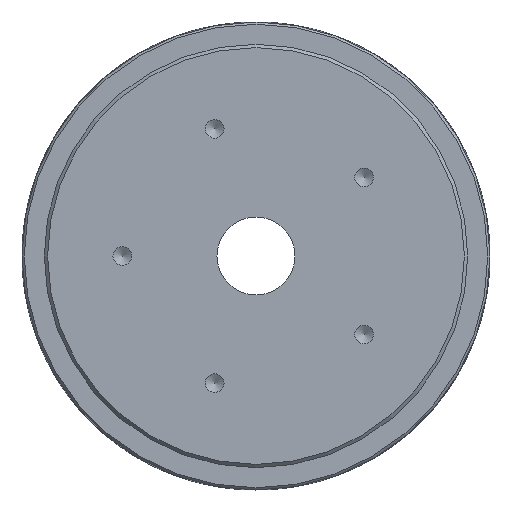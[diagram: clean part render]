
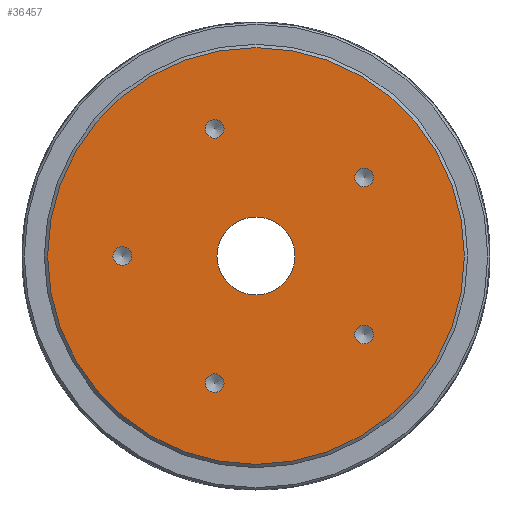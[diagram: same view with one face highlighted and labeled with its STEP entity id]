
A CAD part, left-side view. The second image highlights one B-rep face of the part: STEP entity #36457.
In plain terms, the highlighted planar face has unit normal (-1, 0, 0).
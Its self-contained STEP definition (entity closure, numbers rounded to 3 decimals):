
#7085=FACE_BOUND('',#10122,.T.);
#7086=FACE_BOUND('',#10123,.T.);
#7087=FACE_BOUND('',#10124,.T.);
#7088=FACE_BOUND('',#10125,.T.);
#7089=FACE_BOUND('',#10126,.T.);
#7090=FACE_BOUND('',#10127,.T.);
#8100=FACE_OUTER_BOUND('',#10121,.T.);
#10121=EDGE_LOOP('',(#27559));
#10122=EDGE_LOOP('',(#27560));
#10123=EDGE_LOOP('',(#27561));
#10124=EDGE_LOOP('',(#27562));
#10125=EDGE_LOOP('',(#27563));
#10126=EDGE_LOOP('',(#27564));
#10127=EDGE_LOOP('',(#27565));
#11693=CIRCLE('',#40186,4.188);
#11695=CIRCLE('',#40190,4.188);
#11697=CIRCLE('',#40194,4.188);
#11699=CIRCLE('',#40198,4.188);
#11701=CIRCLE('',#40202,4.188);
#11702=CIRCLE('',#40204,93.5);
#11703=CIRCLE('',#40206,17.5);
#14144=VERTEX_POINT('',#62357);
#14146=VERTEX_POINT('',#62363);
#14148=VERTEX_POINT('',#62369);
#14150=VERTEX_POINT('',#62375);
#14152=VERTEX_POINT('',#62381);
#14153=VERTEX_POINT('',#62384);
#14154=VERTEX_POINT('',#62387);
#18953=EDGE_CURVE('',#14144,#14144,#11693,.T.);
#18955=EDGE_CURVE('',#14146,#14146,#11695,.T.);
#18957=EDGE_CURVE('',#14148,#14148,#11697,.T.);
#18959=EDGE_CURVE('',#14150,#14150,#11699,.T.);
#18961=EDGE_CURVE('',#14152,#14152,#11701,.T.);
#18962=EDGE_CURVE('',#14153,#14153,#11702,.T.);
#18963=EDGE_CURVE('',#14154,#14154,#11703,.T.);
#27559=ORIENTED_EDGE('',*,*,#18962,.F.);
#27560=ORIENTED_EDGE('',*,*,#18953,.T.);
#27561=ORIENTED_EDGE('',*,*,#18955,.T.);
#27562=ORIENTED_EDGE('',*,*,#18957,.T.);
#27563=ORIENTED_EDGE('',*,*,#18959,.T.);
#27564=ORIENTED_EDGE('',*,*,#18961,.T.);
#27565=ORIENTED_EDGE('',*,*,#18963,.T.);
#34511=PLANE('',#40205);
#36457=ADVANCED_FACE('',(#8100,#7085,#7086,#7087,#7088,#7089,#7090),#34511,
 .T.);
#40186=AXIS2_PLACEMENT_3D('',#62358,#49529,#49530);
#40190=AXIS2_PLACEMENT_3D('',#62364,#49537,#49538);
#40194=AXIS2_PLACEMENT_3D('',#62370,#49545,#49546);
#40198=AXIS2_PLACEMENT_3D('',#62376,#49553,#49554);
#40202=AXIS2_PLACEMENT_3D('',#62382,#49561,#49562);
#40204=AXIS2_PLACEMENT_3D('',#62385,#49565,#49566);
#40205=AXIS2_PLACEMENT_3D('',#62386,#49567,#49568);
#40206=AXIS2_PLACEMENT_3D('',#62388,#49569,#49570);
#49529=DIRECTION('center_axis',(1.,0.,0.));
#49530=DIRECTION('ref_axis',(0.,0.,1.));
#49537=DIRECTION('center_axis',(1.,0.,0.));
#49538=DIRECTION('ref_axis',(0.,0.,1.));
#49545=DIRECTION('center_axis',(1.,0.,0.));
#49546=DIRECTION('ref_axis',(0.,0.,1.));
#49553=DIRECTION('center_axis',(1.,0.,0.));
#49554=DIRECTION('ref_axis',(0.,0.,1.));
#49561=DIRECTION('center_axis',(1.,0.,0.));
#49562=DIRECTION('ref_axis',(0.,0.,1.));
#49565=DIRECTION('center_axis',(1.,0.,0.));
#49566=DIRECTION('ref_axis',(0.,-1.,0.));
#49567=DIRECTION('center_axis',(-1.,0.,0.));
#49568=DIRECTION('ref_axis',(0.,0.,1.));
#49569=DIRECTION('center_axis',(1.,0.,0.));
#49570=DIRECTION('ref_axis',(0.,0.,-1.));
#62357=CARTESIAN_POINT('',(-26.166,-57.496,39.455));
#62358=CARTESIAN_POINT('Origin',(-26.166,-57.496,35.267));
#62363=CARTESIAN_POINT('',(-26.166,9.586,-52.875));
#62364=CARTESIAN_POINT('Origin',(-26.166,9.586,-57.063));
#62369=CARTESIAN_POINT('',(-26.166,51.045,4.188));
#62370=CARTESIAN_POINT('Origin',(-26.166,51.045,0.));
#62375=CARTESIAN_POINT('',(-26.166,-57.496,-31.079));
#62376=CARTESIAN_POINT('Origin',(-26.166,-57.496,-35.267));
#62381=CARTESIAN_POINT('',(-26.166,9.586,61.251));
#62382=CARTESIAN_POINT('Origin',(-26.166,9.586,57.063));
#62384=CARTESIAN_POINT('',(-26.166,84.545,0.));
#62385=CARTESIAN_POINT('Origin',(-26.166,-8.955,0.));
#62386=CARTESIAN_POINT('Origin',(-26.166,86.045,0.));
#62387=CARTESIAN_POINT('',(-26.166,8.545,0.));
#62388=CARTESIAN_POINT('Origin',(-26.166,-8.955,0.));
